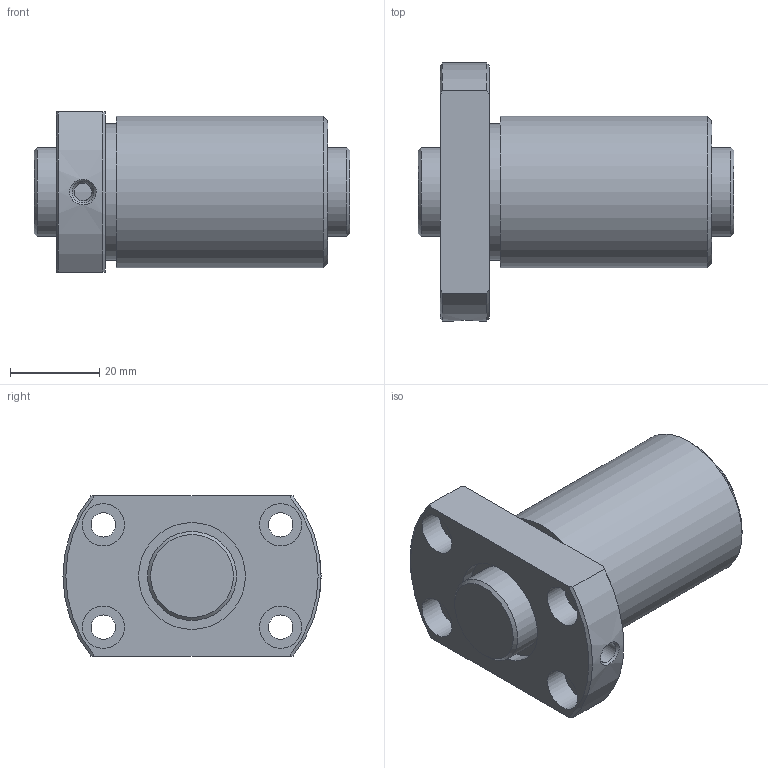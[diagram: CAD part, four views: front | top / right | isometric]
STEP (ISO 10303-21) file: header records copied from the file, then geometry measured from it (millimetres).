
FILE_DESCRIPTION(/* description */ ('STEP AP203'),/* implementation_level */ '2;1');
FILE_NAME(/* name */ 'DIK2005-6RRG0+71LC0_000',/* time_stamp */ '2025-01-13T09:47:01+01:00',/* author */ ('License CC BY-ND 4.0'),/* organization */ ('CADENAS'),/* preprocessor_version */ 'ST-DEVELOPER v19.3',/* originating_system */ 'PARTsolutions',/* authorisation */ ' ');
FILE_SCHEMA (('CONFIG_CONTROL_DESIGN'));
Length unit declared in the file: millimetre
Products named in the file (3): DIK2005-6RRG0+71LC0_000; DIK 2005-6RR07100 Shaft; DIK 2005-6RR Nut
Assembly tree (2 placements, depth 2):
  DIK2005-6RRG0+71LC0_000
    DIK 2005-6RR07100 Shaft
    DIK 2005-6RR Nut
Bounding box: 71 x 58 x 36 mm (x, y, z)
Volume: 66255.5 mm3; surface area: 20667.9 mm2
Topology: 2 solids, 2 shells, 41 faces, 83 edges, 54 vertices
Faces by surface type: cylinder 18, plane 14, cone 9
Full cylindrical faces by diameter (mm): 4 x1, 4.917 x1, 5.5 x4, 9.5 x4, 20 x2, 24 x2, 30.6 x1, 34 x1
Entity records: 1087 total; most frequent: CARTESIAN_POINT 200, DIRECTION 180, ORIENTED_EDGE 120, AXIS2_PLACEMENT_3D 86, EDGE_LOOP 82, FACE_BOUND 82, EDGE_CURVE 60, VERTEX_POINT 52
